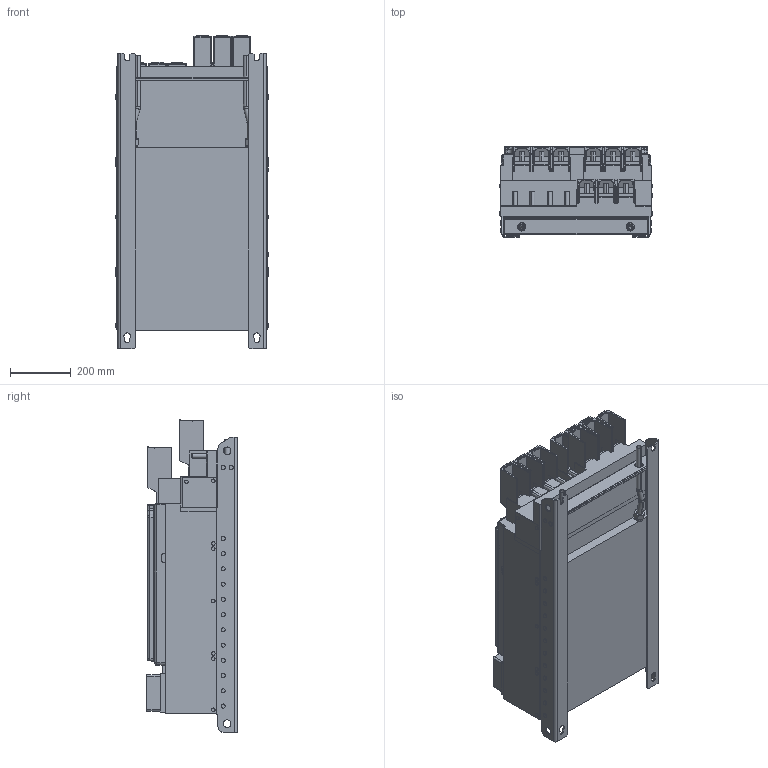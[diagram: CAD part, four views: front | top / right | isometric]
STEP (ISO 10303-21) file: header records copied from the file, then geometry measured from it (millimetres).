
FILE_DESCRIPTION (( 'STEP AP214' ), '1' );
FILE_NAME ('F6-9-TK5-A010.STEP', '2023-11-27T08:22:31', ( '' ), ( '' ), 'SwSTEP 2.0', 'SolidWorks 2022', '' );
FILE_SCHEMA (( 'AUTOMOTIVE_DESIGN' ));
Length unit declared in the file: millimetre
Products named in the file (12): Kundenmodell^10049764_000; F6-9-TK5-A010; 10054881_000_Deckel (Kundenmodell); 10051076_000_Kundenmodell; Kundenmodell^10059764_000; 10068648_000_Kundenmodell; 10049764_000_Kundenmodell; Kundenmodell^10054881_000; 10059764_000_Blindabdeckung (Kundenmodell); Kundenmodell^10068648_000; 10064851_000_Kundenmodell (ohne BW); Kundenmodell^10051076_000_Kundenmodell mit Geberbuchsen
Assembly tree (11 placements, depth 4):
  F6-9-TK5-A010
    10064851_000_Kundenmodell (ohne BW)
      10068648_000_Kundenmodell
        Kundenmodell^10068648_000
    10049764_000_Kundenmodell
      Kundenmodell^10049764_000
    10051076_000_Kundenmodell
      10059764_000_Blindabdeckung (Kundenmodell)
        Kundenmodell^10059764_000
      Kundenmodell^10051076_000_Kundenmodell mit Geberbuchsen
    10054881_000_Deckel (Kundenmodell)
      Kundenmodell^10054881_000
Bounding box: 502.5 x 296.5 x 1028.38 mm (x, y, z)
Volume: 94350913.3 mm3; surface area: 4346332.4 mm2
Topology: 5 solids, 7 shells, 2832 faces, 7321 edges, 4583 vertices
Faces by surface type: plane 1289, cylinder 925, bspline 274, cone 179, sphere 92, torus 73
Entity records: 94647 total; most frequent: CARTESIAN_POINT 27231, ORIENTED_EDGE 14474, DIRECTION 13384, EDGE_CURVE 7237, VERTEX_POINT 4583, AXIS2_PLACEMENT_3D 4564, LINE 4256, VECTOR 4256
